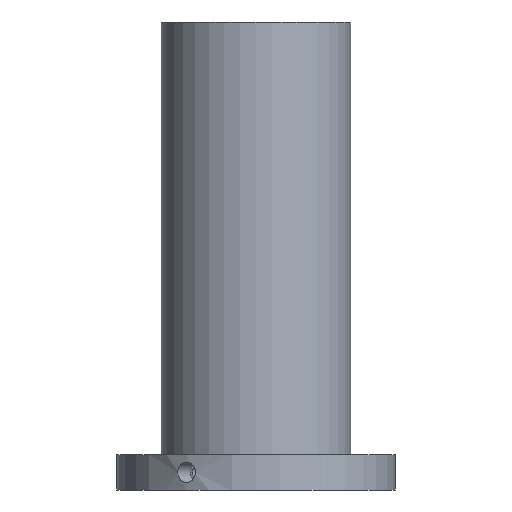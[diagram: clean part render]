
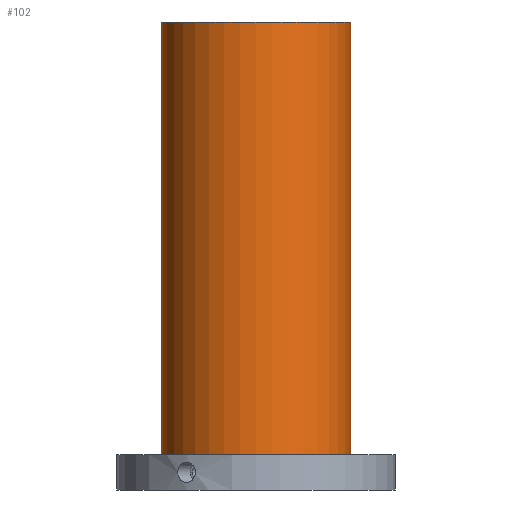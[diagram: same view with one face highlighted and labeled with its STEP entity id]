
A CAD part, front view. The second image highlights one B-rep face of the part: STEP entity #102.
In plain terms, the highlighted cylindrical face has radius 37.5 mm (diameter 75 mm), a full revolution.
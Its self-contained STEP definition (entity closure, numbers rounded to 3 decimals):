
#102=ADVANCED_FACE('',(#136,#137),#119,.T.);
#119=CYLINDRICAL_SURFACE('',#371,37.5);
#136=FACE_BOUND('',#188,.T.);
#137=FACE_BOUND('',#189,.T.);
#188=EDGE_LOOP('',(#240));
#189=EDGE_LOOP('',(#241));
#240=ORIENTED_EDGE('',*,*,#318,.F.);
#241=ORIENTED_EDGE('',*,*,#319,.T.);
#292=VERTEX_POINT('',#557);
#293=VERTEX_POINT('',#559);
#318=EDGE_CURVE('',#292,#292,#343,.T.);
#319=EDGE_CURVE('',#293,#293,#344,.T.);
#343=CIRCLE('',#369,37.5);
#344=CIRCLE('',#370,37.5);
#369=AXIS2_PLACEMENT_3D('',#556,#415,#416);
#370=AXIS2_PLACEMENT_3D('',#558,#417,#418);
#371=AXIS2_PLACEMENT_3D('',#560,#419,#420);
#415=DIRECTION('',(0.,0.,-1.));
#416=DIRECTION('',(1.,0.,0.));
#417=DIRECTION('',(0.,0.,-1.));
#418=DIRECTION('',(1.,0.,0.));
#419=DIRECTION('',(0.,0.,-1.));
#420=DIRECTION('',(-1.,0.,0.));
#556=CARTESIAN_POINT('',(0.,0.,14.));
#557=CARTESIAN_POINT('',(37.5,0.,14.));
#558=CARTESIAN_POINT('',(0.,0.,185.));
#559=CARTESIAN_POINT('',(37.5,0.,185.));
#560=CARTESIAN_POINT('',(0.,0.,185.));
